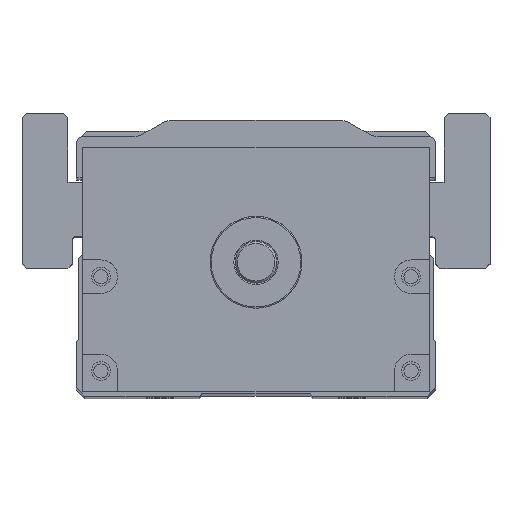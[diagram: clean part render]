
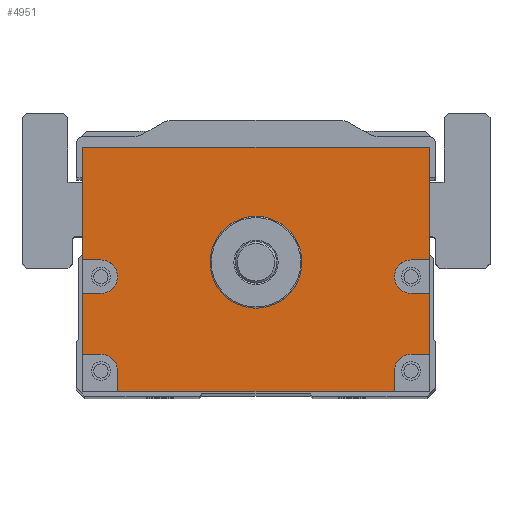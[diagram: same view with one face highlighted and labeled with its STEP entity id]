
A CAD part, top view. The second image highlights one B-rep face of the part: STEP entity #4951.
In plain terms, the highlighted planar face has unit normal (0, 0, 1).
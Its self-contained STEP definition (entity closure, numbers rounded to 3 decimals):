
#3661=FACE_BOUND('',#6569,.T.);
#3662=FACE_BOUND('',#6570,.T.);
#4151=CIRCLE('',#14946,11.);
#4162=CIRCLE('',#14960,4.);
#4163=CIRCLE('',#14961,4.);
#4164=CIRCLE('',#14962,4.);
#4165=CIRCLE('',#14963,4.);
#4951=ADVANCED_FACE('',(#3661,#3662),#5436,.T.);
#5436=PLANE('',#14964);
#6569=EDGE_LOOP('',(#8910,#8911,#8912,#8913,#8914,#8915,#8916,#8917,#8918,
#8919,#8920,#8921,#8922,#8923,#8924,#8925,#8926,#8927));
#6570=EDGE_LOOP('',(#8928));
#8910=ORIENTED_EDGE('',*,*,#12061,.F.);
#8911=ORIENTED_EDGE('',*,*,#12062,.T.);
#8912=ORIENTED_EDGE('',*,*,#12063,.F.);
#8913=ORIENTED_EDGE('',*,*,#12064,.F.);
#8914=ORIENTED_EDGE('',*,*,#12065,.F.);
#8915=ORIENTED_EDGE('',*,*,#12066,.T.);
#8916=ORIENTED_EDGE('',*,*,#12057,.T.);
#8917=ORIENTED_EDGE('',*,*,#12067,.T.);
#8918=ORIENTED_EDGE('',*,*,#12068,.F.);
#8919=ORIENTED_EDGE('',*,*,#12069,.F.);
#8920=ORIENTED_EDGE('',*,*,#12070,.F.);
#8921=ORIENTED_EDGE('',*,*,#12071,.T.);
#8922=ORIENTED_EDGE('',*,*,#12072,.F.);
#8923=ORIENTED_EDGE('',*,*,#12073,.F.);
#8924=ORIENTED_EDGE('',*,*,#12074,.F.);
#8925=ORIENTED_EDGE('',*,*,#12075,.T.);
#8926=ORIENTED_EDGE('',*,*,#12076,.F.);
#8927=ORIENTED_EDGE('',*,*,#12077,.F.);
#8928=ORIENTED_EDGE('',*,*,#12043,.T.);
#10664=VERTEX_POINT('',#21114);
#10677=VERTEX_POINT('',#21142);
#10678=VERTEX_POINT('',#21144);
#10681=VERTEX_POINT('',#21152);
#10682=VERTEX_POINT('',#21153);
#10683=VERTEX_POINT('',#21155);
#10684=VERTEX_POINT('',#21157);
#10685=VERTEX_POINT('',#21159);
#10686=VERTEX_POINT('',#21161);
#10687=VERTEX_POINT('',#21164);
#10688=VERTEX_POINT('',#21166);
#10689=VERTEX_POINT('',#21168);
#10690=VERTEX_POINT('',#21170);
#10691=VERTEX_POINT('',#21172);
#10692=VERTEX_POINT('',#21174);
#10693=VERTEX_POINT('',#21176);
#10694=VERTEX_POINT('',#21178);
#10695=VERTEX_POINT('',#21180);
#10696=VERTEX_POINT('',#21182);
#12043=EDGE_CURVE('',#10664,#10664,#4151,.T.);
#12057=EDGE_CURVE('',#10678,#10677,#13186,.T.);
#12061=EDGE_CURVE('',#10681,#10682,#13188,.T.);
#12062=EDGE_CURVE('',#10681,#10683,#13189,.T.);
#12063=EDGE_CURVE('',#10684,#10683,#13190,.T.);
#12064=EDGE_CURVE('',#10685,#10684,#4162,.T.);
#12065=EDGE_CURVE('',#10686,#10685,#13191,.T.);
#12066=EDGE_CURVE('',#10686,#10678,#13192,.T.);
#12067=EDGE_CURVE('',#10677,#10687,#13193,.T.);
#12068=EDGE_CURVE('',#10688,#10687,#13194,.T.);
#12069=EDGE_CURVE('',#10689,#10688,#4163,.T.);
#12070=EDGE_CURVE('',#10690,#10689,#13195,.T.);
#12071=EDGE_CURVE('',#10690,#10691,#13196,.T.);
#12072=EDGE_CURVE('',#10692,#10691,#13197,.T.);
#12073=EDGE_CURVE('',#10693,#10692,#4164,.T.);
#12074=EDGE_CURVE('',#10694,#10693,#13198,.T.);
#12075=EDGE_CURVE('',#10694,#10695,#13199,.T.);
#12076=EDGE_CURVE('',#10696,#10695,#13200,.T.);
#12077=EDGE_CURVE('',#10682,#10696,#4165,.T.);
#13186=LINE('',#21143,#14018);
#13188=LINE('',#21151,#14020);
#13189=LINE('',#21154,#14021);
#13190=LINE('',#21156,#14022);
#13191=LINE('',#21160,#14023);
#13192=LINE('',#21162,#14024);
#13193=LINE('',#21163,#14025);
#13194=LINE('',#21165,#14026);
#13195=LINE('',#21169,#14027);
#13196=LINE('',#21171,#14028);
#13197=LINE('',#21173,#14029);
#13198=LINE('',#21177,#14030);
#13199=LINE('',#21179,#14031);
#13200=LINE('',#21181,#14032);
#14018=VECTOR('',#17378,1.);
#14020=VECTOR('',#17386,1.);
#14021=VECTOR('',#17387,1.);
#14022=VECTOR('',#17388,1.);
#14023=VECTOR('',#17391,1.);
#14024=VECTOR('',#17392,1.);
#14025=VECTOR('',#17393,1.);
#14026=VECTOR('',#17394,1.);
#14027=VECTOR('',#17397,1.);
#14028=VECTOR('',#17398,1.);
#14029=VECTOR('',#17399,1.);
#14030=VECTOR('',#17402,1.);
#14031=VECTOR('',#17403,1.);
#14032=VECTOR('',#17404,1.);
#14946=AXIS2_PLACEMENT_3D('',#21113,#17351,#17352);
#14960=AXIS2_PLACEMENT_3D('',#21158,#17389,#17390);
#14961=AXIS2_PLACEMENT_3D('',#21167,#17395,#17396);
#14962=AXIS2_PLACEMENT_3D('',#21175,#17400,#17401);
#14963=AXIS2_PLACEMENT_3D('',#21183,#17405,#17406);
#14964=AXIS2_PLACEMENT_3D('',#21184,#17407,#17408);
#17351=DIRECTION('',(0.,0.,-1.));
#17352=DIRECTION('',(1.,0.,0.));
#17378=DIRECTION('',(-1.,0.,0.));
#17386=DIRECTION('',(-1.,0.,0.));
#17387=DIRECTION('',(0.,1.,0.));
#17388=DIRECTION('',(1.,0.,0.));
#17389=DIRECTION('',(0.,0.,1.));
#17390=DIRECTION('',(1.,0.,0.));
#17391=DIRECTION('',(-1.,0.,0.));
#17392=DIRECTION('',(0.,1.,0.));
#17393=DIRECTION('',(0.,-1.,0.));
#17394=DIRECTION('',(-1.,0.,0.));
#17395=DIRECTION('',(0.,0.,1.));
#17396=DIRECTION('',(1.,0.,0.));
#17397=DIRECTION('',(1.,0.,0.));
#17398=DIRECTION('',(0.,-1.,0.));
#17399=DIRECTION('',(-1.,0.,0.));
#17400=DIRECTION('',(0.,0.,1.));
#17401=DIRECTION('',(1.,0.,0.));
#17402=DIRECTION('',(0.,1.,0.));
#17403=DIRECTION('',(1.,0.,0.));
#17404=DIRECTION('',(0.,-1.,0.));
#17405=DIRECTION('',(0.,0.,1.));
#17406=DIRECTION('',(1.,0.,0.));
#17407=DIRECTION('',(0.,0.,1.));
#17408=DIRECTION('',(1.,0.,0.));
#21113=CARTESIAN_POINT('',(750.,0.,182.5));
#21114=CARTESIAN_POINT('',(761.,0.,182.5));
#21142=CARTESIAN_POINT('',(708.5,27.5,182.5));
#21143=CARTESIAN_POINT('',(791.5,27.5,182.5));
#21144=CARTESIAN_POINT('',(791.5,27.5,182.5));
#21151=CARTESIAN_POINT('',(791.5,-22.,182.5));
#21152=CARTESIAN_POINT('',(791.5,-22.,182.5));
#21153=CARTESIAN_POINT('',(787.115,-22.,182.5));
#21154=CARTESIAN_POINT('',(791.5,-31.,182.5));
#21155=CARTESIAN_POINT('',(791.5,-7.431,182.5));
#21156=CARTESIAN_POINT('',(791.5,-7.431,182.5));
#21157=CARTESIAN_POINT('',(787.115,-7.431,182.5));
#21158=CARTESIAN_POINT('',(787.115,-3.431,182.5));
#21159=CARTESIAN_POINT('',(787.115,0.569,182.5));
#21160=CARTESIAN_POINT('',(791.5,0.569,182.5));
#21161=CARTESIAN_POINT('',(791.5,0.569,182.5));
#21162=CARTESIAN_POINT('',(791.5,-31.,182.5));
#21163=CARTESIAN_POINT('',(708.5,27.5,182.5));
#21164=CARTESIAN_POINT('',(708.5,0.569,182.5));
#21165=CARTESIAN_POINT('',(791.5,0.569,182.5));
#21166=CARTESIAN_POINT('',(712.885,0.569,182.5));
#21167=CARTESIAN_POINT('',(712.885,-3.431,182.5));
#21168=CARTESIAN_POINT('',(712.885,-7.431,182.5));
#21169=CARTESIAN_POINT('',(791.5,-7.431,182.5));
#21170=CARTESIAN_POINT('',(708.5,-7.431,182.5));
#21171=CARTESIAN_POINT('',(708.5,27.5,182.5));
#21172=CARTESIAN_POINT('',(708.5,-22.,182.5));
#21173=CARTESIAN_POINT('',(791.5,-22.,182.5));
#21174=CARTESIAN_POINT('',(712.885,-22.,182.5));
#21175=CARTESIAN_POINT('',(712.885,-26.,182.5));
#21176=CARTESIAN_POINT('',(716.885,-26.,182.5));
#21177=CARTESIAN_POINT('',(716.885,-31.,182.5));
#21178=CARTESIAN_POINT('',(716.885,-31.,182.5));
#21179=CARTESIAN_POINT('',(708.5,-31.,182.5));
#21180=CARTESIAN_POINT('',(783.115,-31.,182.5));
#21181=CARTESIAN_POINT('',(783.115,-31.,182.5));
#21182=CARTESIAN_POINT('',(783.115,-26.,182.5));
#21183=CARTESIAN_POINT('',(787.115,-26.,182.5));
#21184=CARTESIAN_POINT('',(791.5,-31.,182.5));
